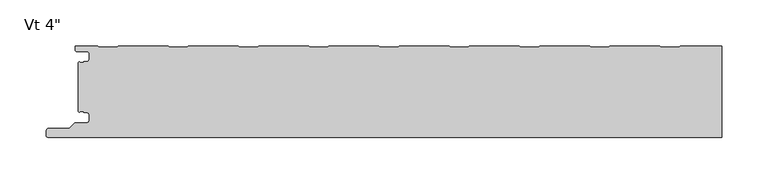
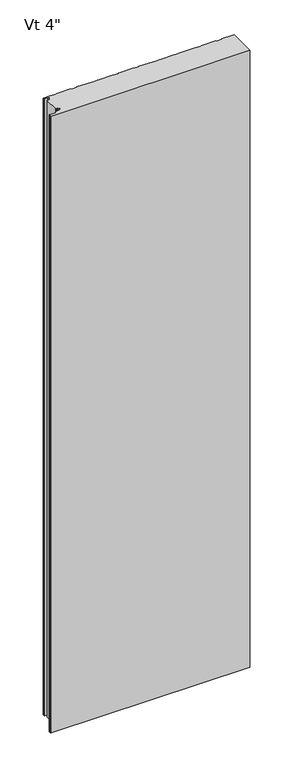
"""IFC4 building model written with IfcOpenShell, lengths in millimetres: plate geometry."""

import ifcopenshell
import ifcopenshell.guid

model = None  # the IFC model being written
_history = None  # IfcOwnerHistory: only IFC2X3 demands one
_inside = {}  # id of a spatial element -> (the spatial element, [elements in it])
_under = {}  # id of a project, library or spatial element -> (it, [spatial elements below it])
_declared = {}  # id of a project -> (the project, [libraries it declares])
_typed = {}  # id of a type object -> (the type object, [elements of that type])
_made_of = {}  # id of a material, layer set ... -> (it, [elements and type objects made of it])


def new_model(schema):
    """Start an empty IFC model of exactly this schema.

    Asked for "IFC4X3", IfcOpenShell would pick the latest addendum, in which some entities
    have other attributes; the version numbers below select the first issue.
    IFC2X3 requires an IfcOwnerHistory on every rooted entity: one is made here for all.
    """
    global model, _history
    if schema == "IFC4X3":
        model = ifcopenshell.file(schema_version=(4, 3, 0, 0))
    else:
        model = ifcopenshell.file(schema=schema)
    _inside.clear()
    _under.clear()
    _declared.clear()
    _typed.clear()
    _made_of.clear()
    _history = None
    if model.schema == "IFC2X3":
        org = make("IfcOrganization", Name="unknown")
        user = make(
            "IfcPersonAndOrganization",
            ThePerson=make("IfcPerson", FamilyName="unknown"),
            TheOrganization=org,
        )
        app = make(
            "IfcApplication",
            ApplicationDeveloper=org,
            Version="unknown",
            ApplicationFullName="unknown",
            ApplicationIdentifier="unknown",
        )
        _history = make(
            "IfcOwnerHistory",
            OwningUser=user,
            OwningApplication=app,
            ChangeAction="ADDED",
            CreationDate=0,
        )
    return model


def make(cls, **values):
    """One entity of the class cls with the attributes given. An attribute that is None is left unset."""
    return model.create_entity(
        cls, **{name: value for name, value in values.items() if value is not None}
    )


def rooted(cls, **values):
    """An entity with a GlobalId (a new one), such as an element, a storey or a relation."""
    return make(cls, GlobalId=ifcopenshell.guid.new(), OwnerHistory=_history, **values)


def si_unit(unit_type, name, prefix=None):
    """IfcSIUnit, for example si_unit("LENGTHUNIT", "METRE", prefix="MILLI")."""
    return make("IfcSIUnit", UnitType=unit_type, Prefix=prefix, Name=name)


def assignment(units):
    """IfcUnitAssignment: the units of a project."""
    return None if units is None else make("IfcUnitAssignment", Units=units)


def point(xyz):
    """IfcCartesianPoint."""
    return None if xyz is None else make("IfcCartesianPoint", Coordinates=xyz)


def direction(xyz):
    """IfcDirection."""
    return None if xyz is None else make("IfcDirection", DirectionRatios=xyz)


def frame(location, z_axis=None, x_axis=None):
    """IfcAxis2Placement3D, a coordinate frame: its origin and axes. An axis left out is left unset."""
    return make(
        "IfcAxis2Placement3D",
        Location=point(location),
        Axis=direction(z_axis),
        RefDirection=direction(x_axis),
    )


def origin():
    """The frame at (0, 0, 0) with its axes left unset."""
    return frame((0.0, 0.0, 0.0))


def place(relative_to, where):
    """IfcLocalPlacement: puts the frame where relative to a parent placement (None: the world)."""
    return make(
        "IfcLocalPlacement", PlacementRelTo=relative_to, RelativePlacement=where
    )


def context(
    kind, dimensions, precision=None, world=None, true_north=None, identifier=None
):
    """IfcGeometricRepresentationContext, for example the 3D "Model" context."""
    return make(
        "IfcGeometricRepresentationContext",
        ContextIdentifier=identifier,
        ContextType=kind,
        CoordinateSpaceDimension=dimensions,
        Precision=precision,
        WorldCoordinateSystem=world,
        TrueNorth=true_north,
    )


def project(units=None, contexts=None):
    """IfcProject with its units and contexts."""
    return rooted(
        "IfcProject",
        Name="project",
        RepresentationContexts=contexts,
        UnitsInContext=assignment(units),
    )


def spatial(cls, under=None, at=None, **own):
    """A site, building, storey or space (cls), placed at a placement, below another one or the project."""
    s = rooted(cls, ObjectPlacement=at, **own)
    if under is not None:
        _under.setdefault(under.id(), (under, []))[1].append(s)
    return s


def polyline(points):
    """IfcPolyline through the points."""
    return make("IfcPolyline", Points=[point(p) for p in points])


def circle_curve(where, radius):
    """IfcCircle in the frame where."""
    return make("IfcCircle", Position=where, Radius=radius)


def shape(context_of_items, identifier, shape_type, items):
    """IfcShapeRepresentation: the items that make up one representation, for example the "Body"."""
    return make(
        "IfcShapeRepresentation",
        ContextOfItems=context_of_items,
        RepresentationIdentifier=identifier,
        RepresentationType=shape_type,
        Items=items,
    )


def source(mapping_origin, context_of_items, identifier, shape_type, items):
    """IfcRepresentationMap: a shape defined once, which mapped items show again and again."""
    return make(
        "IfcRepresentationMap",
        MappingOrigin=mapping_origin,
        MappedRepresentation=shape(context_of_items, identifier, shape_type, items),
    )


def transform(
    local_origin,
    x_axis=None,
    y_axis=None,
    z_axis=None,
    scale=None,
    scale2=None,
    scale3=None,
    uniform=True,
):
    """IfcCartesianTransformationOperator3D, or its non-uniform kind. x_axis, y_axis, z_axis: its Axis1, 2, 3."""
    if uniform:
        return make(
            "IfcCartesianTransformationOperator3D",
            Axis1=direction(x_axis),
            Axis2=direction(y_axis),
            LocalOrigin=point(local_origin),
            Scale=scale,
            Axis3=direction(z_axis),
        )
    return make(
        "IfcCartesianTransformationOperator3DnonUniform",
        Axis1=direction(x_axis),
        Axis2=direction(y_axis),
        LocalOrigin=point(local_origin),
        Scale=scale,
        Axis3=direction(z_axis),
        Scale2=scale2,
        Scale3=scale3,
    )


def mapped(mapping_source, mapping_target):
    """IfcMappedItem: shows the shape of a source again, moved by a transform."""
    return make(
        "IfcMappedItem", MappingSource=mapping_source, MappingTarget=mapping_target
    )


def made_of(thing, what):
    """Note that an element or type object is made of a material, layer set ...; save() writes the relation."""
    if what is not None:
        _made_of.setdefault(what.id(), (what, []))[1].append(thing)
    return thing


def element(
    cls,
    number,
    at=None,
    inside=None,
    cuts=None,
    type_object=None,
    material=None,
    context=None,
    identifier="Body",
    shape_type=None,
    held_by="IfcProductDefinitionShape",
    body=None,
    shapes=None,
    **own,
):
    """One element of the class cls, such as IfcWall. Its Tag is "e" and its number.

    at: its placement. inside: the storey or other place that contains it. cuts: it is an
    opening in that element (IfcRelVoidsElement). A single representation is given by context,
    identifier, shape_type and body (its items); several are given by shapes. held_by: the class
    of the entity that holds the representations. save() writes the other relations.
    """
    e = rooted(cls, Tag="e%d" % number, ObjectPlacement=at, **own)
    if body is not None:
        shapes = [shape(context, identifier, shape_type, body)]
    if shapes is not None:
        e.Representation = make(held_by, Representations=shapes)
    if inside is not None:
        _inside.setdefault(inside.id(), (inside, []))[1].append(e)
    if cuts is not None:
        rooted(
            "IfcRelVoidsElement", RelatingBuildingElement=cuts, RelatedOpeningElement=e
        )
    if type_object is not None:
        _typed.setdefault(type_object.id(), (type_object, []))[1].append(e)
    return made_of(e, material)


def aggregate(whole, parts):
    """IfcRelAggregates: a whole, such as a stair, and the parts it consists of."""
    return rooted("IfcRelAggregates", RelatingObject=whole, RelatedObjects=parts)


def save(model, path):
    """Write the relations noted so far, then the file.

    IfcRelAggregates (storeys below a building ...), IfcRelContainedInSpatialStructure (elements
    in a storey), IfcRelDefinesByType, IfcRelAssociatesMaterial and IfcRelDeclares: one each for
    every whole, place, type object, material and project.
    """
    for whole, parts in _under.values():
        aggregate(whole, parts)
    for where, things in _inside.values():
        rooted(
            "IfcRelContainedInSpatialStructure",
            RelatedElements=things,
            RelatingStructure=where,
        )
    for kind, things in _typed.values():
        rooted("IfcRelDefinesByType", RelatedObjects=things, RelatingType=kind)
    for what, things in _made_of.values():
        rooted("IfcRelAssociatesMaterial", RelatedObjects=things, RelatingMaterial=what)
    for by, libraries in _declared.values():
        rooted("IfcRelDeclares", RelatingContext=by, RelatedDefinitions=libraries)
    model.write(path)


def plane_surface(at):
    """IfcPlane: the flat surface through the origin of the frame at, square to its z axis."""
    return make("IfcPlane", Position=at)


def cylinder_surface(at, radius):
    """IfcCylindricalSurface: all points at the distance radius from the z axis of the frame at."""
    return make("IfcCylindricalSurface", Position=at, Radius=radius)


def revolved_surface(curve, axis_point, axis_direction):
    """IfcSurfaceOfRevolution: the curve turned about the line through axis_point along axis_direction."""
    return make(
        "IfcSurfaceOfRevolution",
        SweptCurve=make("IfcArbitraryOpenProfileDef", ProfileType="CURVE", Curve=curve),
        AxisPosition=make("IfcAxis1Placement", Location=point(axis_point), Axis=direction(axis_direction)),
    )


def advanced_brep(points, edges, surfaces, faces):
    """IfcAdvancedBrep: a solid bounded by faces that lie on surfaces and meet in shared edges.

    An edge is (start, end): straight between two places in points (the first is 0);
    or (start, end, curve); or (start, end, curve, False) where it runs against its curve.
    A face is (place in surfaces, loops), or (place, loops, False) where it looks against
    its surface's normal. A loop lists edges by number (the first is 1), with a minus sign
    where the edge is run from its end to its start. The first loop is the outer one.
    """
    corners = [point(p) for p in points]
    vertices = [make("IfcVertexPoint", VertexGeometry=c) for c in corners]
    made = []
    for start, end, *more in edges:
        made.append(
            make(
                "IfcEdgeCurve",
                EdgeStart=vertices[start],
                EdgeEnd=vertices[end],
                EdgeGeometry=more[0] if more else make("IfcPolyline", Points=[corners[start], corners[end]]),
                SameSense=more[1] if len(more) > 1 else True,
            )
        )
    hull = []
    for where, loops, *sense in faces:
        bounds = []
        for j, loop in enumerate(loops):
            ring = [make("IfcOrientedEdge", EdgeElement=made[abs(k) - 1], Orientation=k > 0) for k in loop]
            bounds.append(
                make(
                    "IfcFaceOuterBound" if j == 0 else "IfcFaceBound",
                    Bound=make("IfcEdgeLoop", EdgeList=ring),
                    Orientation=True,
                )
            )
        hull.append(make("IfcAdvancedFace", Bounds=bounds, FaceSurface=surfaces[where], SameSense=sense[0] if sense else True))
    return make("IfcAdvancedBrep", Outer=make("IfcClosedShell", CfsFaces=hull))


def plate_13ff4fa7(model_context):
    return source(origin(), model_context, "Body", "AdvancedBrep", [
        advanced_brep(
        [(-347.9683, -73.2708793, 2400.0), (-346.767176, -72.1014045, 2400.0), (-343.0087826, -72.1014045, 2400.0), (-343.0087826, -73.4998834, 2400.0), (-340.3096715, -73.4998834, 2400.0), (-336.9596762, -76.8498787, 2400.0), (-336.9596762, -81.2498699, 2400.0), (-340.3096715, -84.5998652, 2400.0), (-352.1205606, -84.5998652, 2400.0), (-353.3226383, -85.0977821, 2400.0), (-358.8247094, -90.5998532, 2400.0), (-380.9198391, -90.5998532, 2400.0), (-383.5765707, -92.8184552, 2400.0), (-384.0125697, -97.8002761, 2400.0), (-381.4521175, -100.594601, 2400.0), (348.9999998, -100.6000043, 2400.0), (348.9999998, -1.0000043, 2400.0), (303.7792489, -1.0000043, 2400.0), (302.3936159, -2.200235, 2400.0), (283.0184496, -2.200235, 2400.0), (281.6328167, -1.0000043, 2400.0), (227.5794013, -1.0000043, 2400.0), (226.1937683, -2.200235, 2400.0), (206.818602, -2.200235, 2400.0), (205.4329691, -1.0000043, 2400.0), (151.3795537, -1.0000043, 2400.0), (149.9939207, -2.200235, 2400.0), (130.6187544, -2.200235, 2400.0), (129.2331215, -1.0000043, 2400.0), (75.1797061, -1.0000043, 2400.0), (73.7940731, -2.200235, 2400.0), (54.4189068, -2.200235, 2400.0), (53.0332739, -1.0000043, 2400.0), (-1.0201415, -1.0000043, 2400.0), (-2.4057745, -2.200235, 2400.0), (-21.7809408, -2.200235, 2400.0), (-23.1665737, -1.0000043, 2400.0), (-77.2199891, -1.0000043, 2400.0), (-78.6056221, -2.200235, 2400.0), (-97.9807884, -2.200235, 2400.0), (-99.3664213, -1.0000043, 2400.0), (-153.4198367, -1.0000043, 2400.0), (-154.8054697, -2.200235, 2400.0), (-174.180636, -2.200235, 2400.0), (-175.5662689, -1.0000043, 2400.0), (-229.6196843, -1.0000043, 2400.0), (-231.0053173, -2.200235, 2400.0), (-250.3804836, -2.200235, 2400.0), (-251.7661165, -1.0000043, 2400.0), (-305.8195319, -1.0000043, 2400.0), (-307.2051649, -2.200235, 2400.0), (-326.5803312, -2.200235, 2400.0), (-327.9659738, -0.9999959, 2400.0), (-352.4662504, -0.9999959, 2400.0), (-352.4662504, -5.2315432, 2400.0), (-350.6962562, -7.0015374, 2400.0), (-340.2762777, -7.0015374, 2400.0), (-336.9762818, -10.3015333, 2400.0), (-336.9762818, -14.7015245, 2400.0), (-340.2762775, -18.0015202, 2400.0), (-342.9684873, -18.0015202, 2400.0), (-342.9684873, -19.0015147, 2400.0), (-346.968691, -19.0015147, 2400.0), (-347.9686882, -18.0015235, 2400.0), (-348.9999998, -19.0328351, 2400.0), (-348.9999998, -72.2391794, 2400.0), (-347.9683, -73.2708793, 0.0), (-348.9999998, -72.2391794, 0.0), (-348.9999998, -19.0328351, 0.0), (-347.9686882, -18.0015235, 0.0), (-346.968691, -19.0015147, 0.0), (-342.9684873, -19.0015147, 0.0), (-342.9684873, -18.0015202, 0.0), (-340.2762775, -18.0015202, 0.0), (-336.9762818, -14.7015245, 0.0), (-336.9762818, -10.3015333, 0.0), (-340.2762777, -7.0015374, 0.0), (-350.6962562, -7.0015374, 0.0), (-352.4662504, -5.2315432, 0.0), (-352.4662504, -0.9999959, 0.0), (-327.9659738, -0.9999959, 0.0), (-326.5803312, -2.200235, 0.0), (-307.2051649, -2.200235, 0.0), (-305.8195319, -1.0000043, 0.0), (-251.7661165, -1.0000043, 0.0), (-250.3804836, -2.200235, 0.0), (-231.0053173, -2.200235, 0.0), (-229.6196843, -1.0000043, 0.0), (-175.5662689, -1.0000043, 0.0), (-174.180636, -2.200235, 0.0), (-154.8054697, -2.200235, 0.0), (-153.4198367, -1.0000043, 0.0), (-99.3664213, -1.0000043, 0.0), (-97.9807884, -2.200235, 0.0), (-78.6056221, -2.200235, 0.0), (-77.2199891, -1.0000043, 0.0), (-23.1665737, -1.0000043, 0.0), (-21.7809408, -2.200235, 0.0), (-2.4057745, -2.200235, 0.0), (-1.0201415, -1.0000043, 0.0), (53.0332739, -1.0000043, 0.0), (54.4189068, -2.200235, 0.0), (73.7940731, -2.200235, 0.0), (75.1797061, -1.0000043, 0.0), (129.2331215, -1.0000043, 0.0), (130.6187544, -2.200235, 0.0), (149.9939207, -2.200235, 0.0), (151.3795537, -1.0000043, 0.0), (205.4329691, -1.0000043, 0.0), (206.818602, -2.200235, 0.0), (226.1937683, -2.200235, 0.0), (227.5794013, -1.0000043, 0.0), (281.6328167, -1.0000043, 0.0), (283.0184496, -2.200235, 0.0), (302.3936159, -2.200235, 0.0), (303.7792489, -1.0000043, 0.0), (348.9999998, -1.0000043, 0.0), (348.9999998, -100.6000043, 0.0), (-381.4521175, -100.6000043, 0.0), (-384.0125697, -97.8002761, 0.0), (-383.5765707, -92.8184552, 0.0), (-380.9198391, -90.5998532, 0.0), (-358.8247094, -90.5998532, 0.0), (-353.3226383, -85.0977821, 0.0), (-352.1205606, -84.5998652, 0.0), (-340.3096715, -84.5998652, 0.0), (-336.9596762, -81.2498699, 0.0), (-336.9596762, -76.8498787, 0.0), (-340.3096715, -73.4998834, 0.0), (-343.0087826, -73.4998834, 0.0), (-343.0087826, -72.1014045, 0.0), (-346.767176, -72.1014045, 0.0)],
        [
            (0, 1, circle_curve(frame((-346.7686906, -73.3014012, 2400.0), z_axis=(0.0, 0.0, -1.0), x_axis=(-1.0, 0.0, 0.0)), 1.1999976)),
            (1, 2),
            (2, 3),
            (3, 4),
            (4, 5, circle_curve(frame((-340.3096715, -76.8498787, 2400.0), z_axis=(0.0, 0.0, -1.0), x_axis=(-1.0, 0.0, 0.0)), 3.3499953)),
            (5, 6),
            (6, 7, circle_curve(frame((-340.3096715, -81.2498699, 2400.0), z_axis=(0.0, 0.0, -1.0), x_axis=(-1.0, 0.0, 0.0)), 3.3499953)),
            (7, 8),
            (8, 9, circle_curve(frame((-352.1205606, -86.2998598, 2400.0), z_axis=(0.0, 0.0, 1.0), x_axis=(-1.0, 0.0, 0.0)), 1.6999946)),
            (9, 10),
            (10, 11),
            (11, 12, circle_curve(frame((-380.9198391, -93.2998458, 2400.0), z_axis=(0.0, 0.0, 1.0), x_axis=(-1.0, 0.0, 0.0)), 2.6999926)),
            (12, 13),
            (13, 14, circle_curve(frame((-381.4521175, -98.0243617, 2400.0), z_axis=(0.0, 0.0, 1.0), x_axis=(-1.0, 0.0, 0.0)), 2.5702393)),
            (14, 15),
            (15, 16),
            (16, 17),
            (17, 18),
            (18, 19),
            (19, 20),
            (20, 21),
            (21, 22),
            (22, 23),
            (23, 24),
            (24, 25),
            (25, 26),
            (26, 27),
            (27, 28),
            (28, 29),
            (29, 30),
            (30, 31),
            (31, 32),
            (32, 33),
            (33, 34),
            (34, 35),
            (35, 36),
            (36, 37),
            (37, 38),
            (38, 39),
            (39, 40),
            (40, 41),
            (41, 42),
            (42, 43),
            (43, 44),
            (44, 45),
            (45, 46),
            (46, 47),
            (47, 48),
            (48, 49),
            (49, 50),
            (50, 51),
            (51, 52),
            (52, 53),
            (53, 54),
            (54, 55, circle_curve(frame((-350.6962562, -5.2315432, 2400.0), z_axis=(0.0, 0.0, 1.0), x_axis=(1.0, 0.0, 0.0)), 1.7699942)),
            (55, 56),
            (56, 57, circle_curve(frame((-340.2762777, -10.3015333, 2400.0), z_axis=(0.0, 0.0, -1.0), x_axis=(1.0, 0.0, 0.0)), 3.2999959)),
            (57, 58),
            (58, 59, circle_curve(frame((-340.2762775, -14.7015245, 2400.0), z_axis=(0.0, 0.0, -1.0), x_axis=(1.0, 0.0, 0.0)), 3.2999957)),
            (59, 60),
            (60, 61),
            (61, 62),
            (62, 63, circle_curve(frame((-346.968691, -18.0015175, 2400.0), z_axis=(0.0, 0.0, -1.0), x_axis=(1.0, 0.0, 0.0)), 0.9999972)),
            (63, 64),
            (64, 65),
            (65, 0),
            (66, 67),
            (67, 68),
            (68, 69),
            (69, 70, circle_curve(frame((-346.968691, -18.0015175, 0.0), z_axis=(0.0, 0.0, 1.0), x_axis=(1.0, 0.0, 0.0)), 0.9999972)),
            (70, 71),
            (71, 72),
            (72, 73),
            (73, 74, circle_curve(frame((-340.2762775, -14.7015245, 0.0), z_axis=(0.0, 0.0, 1.0), x_axis=(1.0, 0.0, 0.0)), 3.2999957)),
            (74, 75),
            (75, 76, circle_curve(frame((-340.2762777, -10.3015333, 0.0), z_axis=(0.0, 0.0, 1.0), x_axis=(1.0, 0.0, 0.0)), 3.2999959)),
            (76, 77),
            (77, 78, circle_curve(frame((-350.6962562, -5.2315432, 0.0), z_axis=(0.0, 0.0, -1.0), x_axis=(1.0, 0.0, 0.0)), 1.7699942)),
            (78, 79),
            (79, 80),
            (80, 81),
            (81, 82),
            (82, 83),
            (83, 84),
            (84, 85),
            (85, 86),
            (86, 87),
            (87, 88),
            (88, 89),
            (89, 90),
            (90, 91),
            (91, 92),
            (92, 93),
            (93, 94),
            (94, 95),
            (95, 96),
            (96, 97),
            (97, 98),
            (98, 99),
            (99, 100),
            (100, 101),
            (101, 102),
            (102, 103),
            (103, 104),
            (104, 105),
            (105, 106),
            (106, 107),
            (107, 108),
            (108, 109),
            (109, 110),
            (110, 111),
            (111, 112),
            (112, 113),
            (113, 114),
            (114, 115),
            (115, 116),
            (116, 117),
            (117, 118),
            (118, 119, circle_curve(frame((-381.4521175, -98.0243617, 0.0), z_axis=(0.0, 0.0, -1.0), x_axis=(-1.0, 0.0, 0.0)), 2.5702393)),
            (119, 120),
            (120, 121, circle_curve(frame((-380.9198391, -93.2998458, 0.0), z_axis=(0.0, 0.0, -1.0), x_axis=(-1.0, 0.0, 0.0)), 2.6999926)),
            (121, 122),
            (122, 123),
            (123, 124, circle_curve(frame((-352.1205606, -86.2998598, 0.0), z_axis=(0.0, 0.0, -1.0), x_axis=(-1.0, 0.0, 0.0)), 1.6999946)),
            (124, 125),
            (125, 126, circle_curve(frame((-340.3096715, -81.2498699, 0.0), z_axis=(0.0, 0.0, 1.0), x_axis=(-1.0, 0.0, 0.0)), 3.3499953)),
            (126, 127),
            (127, 128, circle_curve(frame((-340.3096715, -76.8498787, 0.0), z_axis=(0.0, 0.0, 1.0), x_axis=(-1.0, 0.0, 0.0)), 3.3499953)),
            (128, 129),
            (129, 130),
            (130, 131),
            (131, 66, circle_curve(frame((-346.7686906, -73.3014012, 0.0), z_axis=(0.0, 0.0, 1.0), x_axis=(-1.0, 0.0, 0.0)), 1.1999976)),
            (65, 67),
            (66, 0),
            (64, 68),
            (117, 15),
            (14, 118),
            (13, 119),
            (12, 120),
            (11, 121),
            (10, 122),
            (9, 123),
            (8, 124),
            (7, 125),
            (6, 126),
            (5, 127),
            (4, 128),
            (3, 129),
            (2, 130),
            (1, 131),
            (116, 16),
            (63, 69),
            (62, 70),
            (61, 71),
            (60, 72),
            (59, 73),
            (58, 74),
            (57, 75),
            (56, 76),
            (55, 77),
            (54, 78),
            (53, 79),
            (52, 80),
            (51, 81),
            (50, 82),
            (49, 83),
            (48, 84),
            (47, 85),
            (46, 86),
            (45, 87),
            (44, 88),
            (43, 89),
            (42, 90),
            (41, 91),
            (40, 92),
            (39, 93),
            (38, 94),
            (37, 95),
            (36, 96),
            (35, 97),
            (34, 98),
            (33, 99),
            (32, 100),
            (31, 101),
            (30, 102),
            (29, 103),
            (28, 104),
            (27, 105),
            (26, 106),
            (25, 107),
            (24, 108),
            (23, 109),
            (22, 110),
            (21, 111),
            (20, 112),
            (19, 113),
            (18, 114),
            (17, 115),
        ],
        [
            plane_surface(frame((32.0000002, -100.6000043, 2400.0), z_axis=(0.0, 0.0, 1.0), x_axis=(0.0, -1.0, 0.0))),
            plane_surface(frame((32.0000002, -100.6000043, 0.0), z_axis=(0.0, 0.0, -1.0), x_axis=(0.0, -1.0, 0.0))),
            plane_surface(frame((-347.9683, -73.2708793, 2400.0), z_axis=(-0.7071067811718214, -0.7071067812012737, 0.0), x_axis=(0.0, 0.0, -1.0))),
            plane_surface(frame((-348.9999998, -72.2391794, 2400.0), z_axis=(-1.0, 0.0, 0.0), x_axis=(0.0, 0.0, -1.0))),
            plane_surface(frame((364.5156221, -100.6000043, 2400.0), z_axis=(0.0, -1.0, 0.0), x_axis=(0.0, 0.0, -1.0))),
            cylinder_surface(frame((-381.4521175, -98.0243617, 2400.0), z_axis=(0.0, 0.0, 1.0), x_axis=(-1.0, 0.0, 0.0)), 2.5702393),
            plane_surface(frame((-384.0125697, -97.8002761, 2400.0), z_axis=(-0.9961921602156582, 0.08718474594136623, 0.0), x_axis=(0.0, 0.0, -1.0))),
            cylinder_surface(frame((-380.9198391, -93.2998458, 2400.0), z_axis=(0.0, 0.0, 1.0), x_axis=(-1.0, 0.0, 0.0)), 2.6999926),
            plane_surface(frame((-380.9198391, -90.5998532, 2400.0), z_axis=(0.0, 1.0, 0.0), x_axis=(0.0, 0.0, -1.0))),
            plane_surface(frame((-358.8247094, -90.5998532, 2400.0), z_axis=(-0.7071067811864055, 0.7071067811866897, 0.0), x_axis=(0.0, 0.0, -1.0))),
            cylinder_surface(frame((-352.1205606, -86.2998598, 2400.0), z_axis=(0.0, 0.0, 1.0), x_axis=(-1.0, 0.0, 0.0)), 1.6999946),
            plane_surface(frame((-352.1205606, -84.5998652, 2400.0), z_axis=(0.0, 1.0, 0.0), x_axis=(0.0, 0.0, -1.0))),
            revolved_surface(polyline([(-343.65966679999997, -81.2498699, 0.0), (-343.65966679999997, -81.2498699, 2400.0)]), (-340.3096715, -81.2498699, 2400.0), (0.0, 0.0, -1.0)),
            plane_surface(frame((-336.9596762, -81.2498699, 2400.0), z_axis=(-1.0, 0.0, 0.0), x_axis=(0.0, 0.0, -1.0))),
            revolved_surface(polyline([(-343.65966679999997, -76.8498787, 0.0), (-343.65966679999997, -76.8498787, 2400.0)]), (-340.3096715, -76.8498787, 2400.0), (0.0, 0.0, -1.0)),
            plane_surface(frame((-340.3096715, -73.4998834, 2400.0), z_axis=(0.0, -1.0, 0.0), x_axis=(0.0, 0.0, -1.0))),
            plane_surface(frame((-343.0087826, -73.4998834, 2400.0), z_axis=(-1.0, 0.0, 0.0), x_axis=(0.0, 0.0, -1.0))),
            plane_surface(frame((-343.0087826, -72.1014045, 2400.0), z_axis=(0.0, -1.0, 0.0), x_axis=(0.0, 0.0, -1.0))),
            revolved_surface(polyline([(-347.96868820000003, -73.3014012, 0.0), (-347.96868820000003, -73.3014012, 2400.0)]), (-346.7686906, -73.3014012, 2400.0), (0.0, 0.0, -1.0)),
            plane_surface(frame((348.9999998, -111.6000043, 2400.0), z_axis=(1.0, 0.0, 0.0), x_axis=(0.0, 0.0, -1.0))),
            plane_surface(frame((-348.9999998, -19.0328351, 2400.0), z_axis=(-0.7071067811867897, 0.7071067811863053, 0.0), x_axis=(0.0, 0.0, -1.0))),
            revolved_surface(polyline([(-345.9686938, -18.0015175, 0.0), (-345.9686938, -18.0015175, 2400.0)]), (-346.968691, -18.0015175, 2400.0), (0.0, 0.0, -1.0)),
            plane_surface(frame((-346.968691, -19.0015147, 2400.0), z_axis=(0.0, 1.0, 0.0), x_axis=(0.0, 0.0, -1.0))),
            plane_surface(frame((-342.9684873, -19.0015147, 2400.0), z_axis=(-1.0, 0.0, 0.0), x_axis=(0.0, 0.0, -1.0))),
            plane_surface(frame((-342.9684873, -18.0015202, 2400.0), z_axis=(0.0, 1.0, 0.0), x_axis=(0.0, 0.0, -1.0))),
            revolved_surface(polyline([(-336.9762818, -14.7015245, 0.0), (-336.9762818, -14.7015245, 2400.0)]), (-340.2762775, -14.7015245, 2400.0), (0.0, 0.0, -1.0)),
            plane_surface(frame((-336.9762818, -14.7015245, 2400.0), z_axis=(-1.0, 0.0, 0.0), x_axis=(0.0, 0.0, -1.0))),
            revolved_surface(polyline([(-336.9762818, -10.3015333, 0.0), (-336.9762818, -10.3015333, 2400.0)]), (-340.2762777, -10.3015333, 2400.0), (0.0, 0.0, -1.0)),
            plane_surface(frame((-340.2762777, -7.0015374, 2400.0), z_axis=(0.0, -1.0, 0.0), x_axis=(0.0, 0.0, -1.0))),
            cylinder_surface(frame((-350.6962562, -5.2315432, 2400.0), z_axis=(0.0, 0.0, 1.0), x_axis=(1.0, 0.0, 0.0)), 1.7699942),
            plane_surface(frame((-352.4662504, -5.2315432, 2400.0), z_axis=(-1.0, 0.0, 0.0), x_axis=(0.0, 0.0, -1.0))),
            plane_surface(frame((-352.4662504, -0.9999959, 2400.0), z_axis=(0.0, 1.0, 0.0), x_axis=(0.0, 0.0, -1.0))),
            plane_surface(frame((-327.9659738, -0.9999959, 2400.0), z_axis=(0.6547276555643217, 0.755864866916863, 0.0), x_axis=(0.0, 0.0, -1.0))),
            plane_surface(frame((-326.5803312, -2.200235, 2400.0), z_axis=(0.0, 1.0, 0.0), x_axis=(0.0, 0.0, -1.0))),
            plane_surface(frame((-307.2051649, -2.200235, 2400.0), z_axis=(-0.6547276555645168, 0.755864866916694, 0.0), x_axis=(0.0, 0.0, -1.0))),
            plane_surface(frame((-305.8195319, -1.0000043, 2400.0), z_axis=(0.0, 1.0, 0.0), x_axis=(0.0, 0.0, -1.0))),
            plane_surface(frame((-251.7661165, -1.0000043, 2400.0), z_axis=(0.6547276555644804, 0.7558648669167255, 0.0), x_axis=(0.0, 0.0, -1.0))),
            plane_surface(frame((-250.3804836, -2.200235, 2400.0), z_axis=(0.0, 1.0, 0.0), x_axis=(0.0, 0.0, -1.0))),
            plane_surface(frame((-231.0053173, -2.200235, 2400.0), z_axis=(-0.6547276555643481, 0.7558648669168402, 0.0), x_axis=(0.0, 0.0, -1.0))),
            plane_surface(frame((-229.6196843, -1.0000043, 2400.0), z_axis=(0.0, 1.0, 0.0), x_axis=(0.0, 0.0, -1.0))),
            plane_surface(frame((-175.5662689, -1.0000043, 2400.0), z_axis=(0.6547276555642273, 0.7558648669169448, 0.0), x_axis=(0.0, 0.0, -1.0))),
            plane_surface(frame((-174.180636, -2.200235, 2400.0), z_axis=(0.0, 1.0, 0.0), x_axis=(0.0, 0.0, -1.0))),
            plane_surface(frame((-154.8054697, -2.200235, 2400.0), z_axis=(-0.6547276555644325, 0.755864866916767, 0.0), x_axis=(0.0, 0.0, -1.0))),
            plane_surface(frame((-153.4198367, -1.0000043, 2400.0), z_axis=(0.0, 1.0, 0.0), x_axis=(0.0, 0.0, -1.0))),
            plane_surface(frame((-99.3664213, -1.0000043, 2400.0), z_axis=(0.6547276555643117, 0.7558648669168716, 0.0), x_axis=(0.0, 0.0, -1.0))),
            plane_surface(frame((-97.9807884, -2.200235, 2400.0), z_axis=(0.0, 1.0, 0.0), x_axis=(0.0, 0.0, -1.0))),
            plane_surface(frame((-78.6056221, -2.200235, 2400.0), z_axis=(-0.6547276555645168, 0.755864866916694, 0.0), x_axis=(0.0, 0.0, -1.0))),
            plane_surface(frame((-77.2199891, -1.0000043, 2400.0), z_axis=(0.0, 1.0, 0.0), x_axis=(0.0, 0.0, -1.0))),
            plane_surface(frame((-23.1665737, -1.0000043, 2400.0), z_axis=(0.654727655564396, 0.7558648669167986, 0.0), x_axis=(0.0, 0.0, -1.0))),
            plane_surface(frame((-21.7809408, -2.200235, 2400.0), z_axis=(0.0, 1.0, 0.0), x_axis=(0.0, 0.0, -1.0))),
            plane_surface(frame((-2.4057745, -2.200235, 2400.0), z_axis=(-0.6547276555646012, 0.7558648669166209, 0.0), x_axis=(0.0, 0.0, -1.0))),
            plane_surface(frame((-1.0201415, -1.0000043, 2400.0), z_axis=(0.0, 1.0, 0.0), x_axis=(0.0, 0.0, -1.0))),
            plane_surface(frame((53.0332739, -1.0000043, 2400.0), z_axis=(0.6547276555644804, 0.7558648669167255, 0.0), x_axis=(0.0, 0.0, -1.0))),
            plane_surface(frame((54.4189068, -2.200235, 2400.0), z_axis=(0.0, 1.0, 0.0), x_axis=(0.0, 0.0, -1.0))),
            plane_surface(frame((73.7940731, -2.200235, 2400.0), z_axis=(-0.65472765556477, 0.7558648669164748, 0.0), x_axis=(0.0, 0.0, -1.0))),
            plane_surface(frame((75.1797061, -1.0000043, 2400.0), z_axis=(0.0, 1.0, 0.0), x_axis=(0.0, 0.0, -1.0))),
            plane_surface(frame((129.2331215, -1.0000043, 2400.0), z_axis=(0.6547276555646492, 0.7558648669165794, 0.0), x_axis=(0.0, 0.0, -1.0))),
            plane_surface(frame((130.6187544, -2.200235, 2400.0), z_axis=(0.0, 1.0, 0.0), x_axis=(0.0, 0.0, -1.0))),
            plane_surface(frame((149.9939207, -2.200235, 2400.0), z_axis=(-0.65472765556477, 0.7558648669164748, 0.0), x_axis=(0.0, 0.0, -1.0))),
            plane_surface(frame((151.3795537, -1.0000043, 2400.0), z_axis=(0.0, 1.0, 0.0), x_axis=(0.0, 0.0, -1.0))),
            plane_surface(frame((205.4329691, -1.0000043, 2400.0), z_axis=(0.6547276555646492, 0.7558648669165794, 0.0), x_axis=(0.0, 0.0, -1.0))),
            plane_surface(frame((206.818602, -2.200235, 2400.0), z_axis=(0.0, 1.0, 0.0), x_axis=(0.0, 0.0, -1.0))),
            plane_surface(frame((226.1937683, -2.200235, 2400.0), z_axis=(-0.6547276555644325, 0.755864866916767, 0.0), x_axis=(0.0, 0.0, -1.0))),
            plane_surface(frame((227.5794013, -1.0000043, 2400.0), z_axis=(0.0, 1.0, 0.0), x_axis=(0.0, 0.0, -1.0))),
            plane_surface(frame((281.6328167, -1.0000043, 2400.0), z_axis=(0.6547276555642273, 0.7558648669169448, 0.0), x_axis=(0.0, 0.0, -1.0))),
            plane_surface(frame((283.0184496, -2.200235, 2400.0), z_axis=(0.0, 1.0, 0.0), x_axis=(0.0, 0.0, -1.0))),
            plane_surface(frame((302.3936159, -2.200235, 2400.0), z_axis=(-0.6547276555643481, 0.7558648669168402, 0.0), x_axis=(0.0, 0.0, -1.0))),
            plane_surface(frame((303.7792489, -1.0000043, 2400.0), z_axis=(0.0, 1.0, 0.0), x_axis=(0.0, 0.0, -1.0))),
        ],
        [
            (0, [[1, 2, 3, 4, 5, 6, 7, 8, 9, 10, 11, 12, 13, 14, 15, 16, 17, 18, 19, 20, 21, 22, 23, 24, 25, 26, 27, 28, 29, 30, 31, 32, 33, 34, 35, 36, 37, 38, 39, 40, 41, 42, 43, 44, 45, 46, 47, 48, 49, 50, 51, 52, 53, 54, 55, 56, 57, 58, 59, 60, 61, 62, 63, 64, 65, 66]]),
            (1, [[67, 68, 69, 70, 71, 72, 73, 74, 75, 76, 77, 78, 79, 80, 81, 82, 83, 84, 85, 86, 87, 88, 89, 90, 91, 92, 93, 94, 95, 96, 97, 98, 99, 100, 101, 102, 103, 104, 105, 106, 107, 108, 109, 110, 111, 112, 113, 114, 115, 116, 117, 118, 119, 120, 121, 122, 123, 124, 125, 126, 127, 128, 129, 130, 131, 132]]),
            (2, [[133, -67, 134, -66]]),
            (3, [[-65, 135, -68, -133]]),
            (4, [[-118, 136, -15, 137]]),
            (5, [[138, -119, -137, -14]]),
            (6, [[139, -120, -138, -13]]),
            (7, [[140, -121, -139, -12]]),
            (8, [[141, -122, -140, -11]]),
            (9, [[142, -123, -141, -10]]),
            (10, [[143, -124, -142, -9]]),
            (11, [[144, -125, -143, -8]]),
            (12, [[145, -126, -144, -7]]),
            (13, [[146, -127, -145, -6]]),
            (14, [[147, -128, -146, -5]]),
            (15, [[148, -129, -147, -4]]),
            (16, [[149, -130, -148, -3]]),
            (17, [[150, -131, -149, -2]]),
            (18, [[-134, -132, -150, -1]]),
            (19, [[-136, -117, 151, -16]]),
            (20, [[152, -69, -135, -64]]),
            (21, [[153, -70, -152, -63]]),
            (22, [[154, -71, -153, -62]]),
            (23, [[155, -72, -154, -61]]),
            (24, [[156, -73, -155, -60]]),
            (25, [[157, -74, -156, -59]]),
            (26, [[158, -75, -157, -58]]),
            (27, [[159, -76, -158, -57]]),
            (28, [[160, -77, -159, -56]]),
            (29, [[161, -78, -160, -55]]),
            (30, [[162, -79, -161, -54]]),
            (31, [[163, -80, -162, -53]]),
            (32, [[164, -81, -163, -52]]),
            (33, [[165, -82, -164, -51]]),
            (34, [[166, -83, -165, -50]]),
            (35, [[167, -84, -166, -49]]),
            (36, [[168, -85, -167, -48]]),
            (37, [[169, -86, -168, -47]]),
            (38, [[170, -87, -169, -46]]),
            (39, [[171, -88, -170, -45]]),
            (40, [[172, -89, -171, -44]]),
            (41, [[173, -90, -172, -43]]),
            (42, [[174, -91, -173, -42]]),
            (43, [[175, -92, -174, -41]]),
            (44, [[176, -93, -175, -40]]),
            (45, [[177, -94, -176, -39]]),
            (46, [[178, -95, -177, -38]]),
            (47, [[179, -96, -178, -37]]),
            (48, [[180, -97, -179, -36]]),
            (49, [[181, -98, -180, -35]]),
            (50, [[182, -99, -181, -34]]),
            (51, [[183, -100, -182, -33]]),
            (52, [[184, -101, -183, -32]]),
            (53, [[185, -102, -184, -31]]),
            (54, [[186, -103, -185, -30]]),
            (55, [[187, -104, -186, -29]]),
            (56, [[188, -105, -187, -28]]),
            (57, [[189, -106, -188, -27]]),
            (58, [[190, -107, -189, -26]]),
            (59, [[191, -108, -190, -25]]),
            (60, [[192, -109, -191, -24]]),
            (61, [[193, -110, -192, -23]]),
            (62, [[194, -111, -193, -22]]),
            (63, [[195, -112, -194, -21]]),
            (64, [[196, -113, -195, -20]]),
            (65, [[197, -114, -196, -19]]),
            (66, [[198, -115, -197, -18]]),
            (67, [[-17, -151, -116, -198]]),
        ],
    ),
    ])


if __name__ == "__main__":
    model = new_model("IFC4")
    model_context = context("Model", 3, world=origin())
    ifc_project = project(units=[si_unit("LENGTHUNIT", "METRE", prefix="MILLI")], contexts=[model_context])
    site = spatial("IfcSite", under=ifc_project)
    building = spatial("IfcBuilding", under=site)
    placement = place(None, origin())
    plate_shape = plate_13ff4fa7(model_context)
    element("IfcPlate", 1, ObjectType="KIP-30-Karrier-KP-R19-CP-Vt-FL3-8_SL : Vt 4\"", at=placement, inside=building, context=model_context, shape_type="MappedRepresentation", body=[
        mapped(plate_shape, transform((0.0, 0.0, 0.0), x_axis=(1.0, 0.0, 0.0), y_axis=(0.0, 1.0, 0.0), z_axis=(0.0, 0.0, 1.0))),
    ])
    save(model, "model.ifc")
